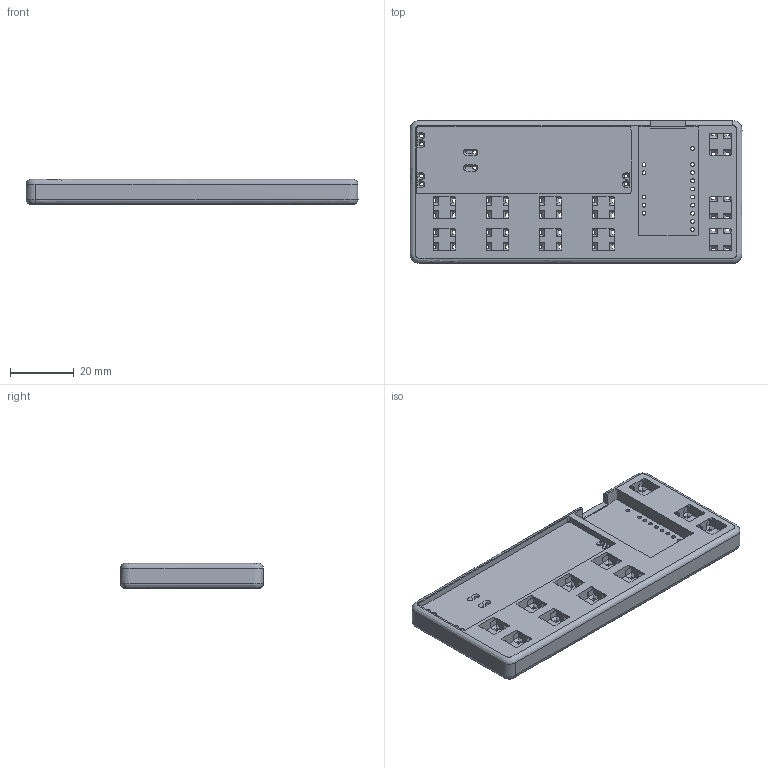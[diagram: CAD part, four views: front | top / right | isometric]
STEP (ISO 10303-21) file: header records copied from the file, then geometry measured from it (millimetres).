
FILE_DESCRIPTION(/* description */ (''),/* implementation_level */ '2;1');
FILE_NAME(/* name */ 'leet_pad',/* time_stamp */ '2020-11-04T21:37:42+01:00',/* author */ (''),/* organization */ (''),/* preprocessor_version */ 'ST-DEVELOPER v10',/* originating_system */ '',/* authorisation */ '');
FILE_SCHEMA (('CONFIG_CONTROL_DESIGN'));
Length unit declared in the file: millimetre
Products named in the file (1): 1
Bounding box: 104.1 x 44.83 x 8 mm (x, y, z)
Volume: 22725.4 mm3; surface area: 17072 mm2
Topology: 1 solids, 1 shells, 1248 faces, 3418 edges, 2099 vertices
Faces by surface type: plane 930, bspline 318
Entity records: 55206 total; most frequent: CARTESIAN_POINT 33119, ORIENTED_EDGE 6788, EDGE_CURVE 3394, B_SPLINE_CURVE_WITH_KNOTS 2862, VERTEX_POINT 2099, EDGE_LOOP 1333, ADVANCED_FACE 1248, FACE_OUTER_BOUND 1248
